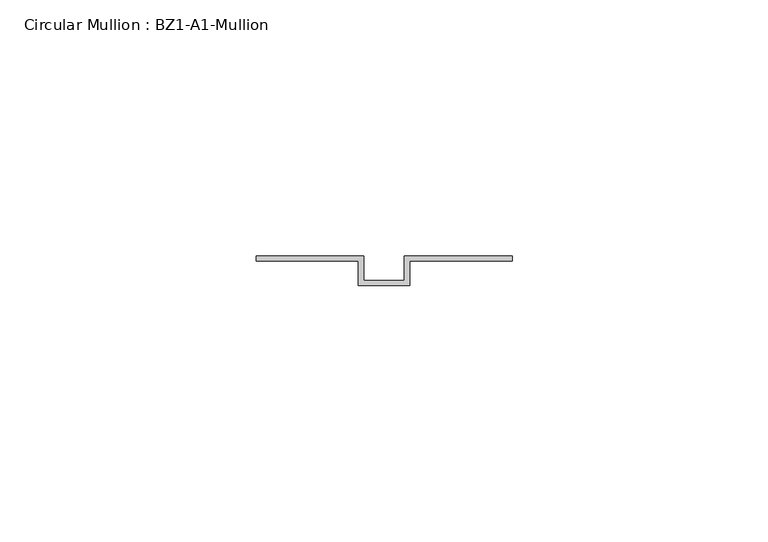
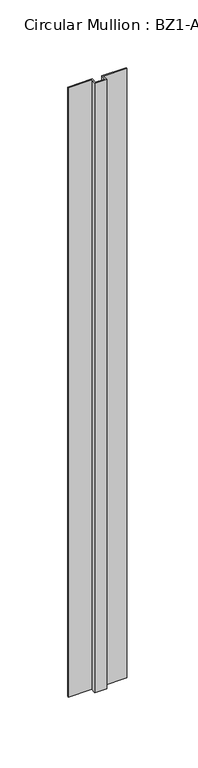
"""IFC4 building model written with IfcOpenShell, lengths in millimetres: member geometry, Circular Mullion : BZ1-A1-Mullion."""

from ifc_helpers import new_model, si_unit, frame, origin, place, context, project, spatial, polyline, outline, extrude, source, transform, mapped, element, save


def circular_mullion_bz1_a1_mullion_760fcf40(model_context):
    return source(origin(), model_context, "Body", "SweptSolid", [
        extrude(outline(polyline([(-25.0, 11.0), (-4.0, 11.0), (-4.0, 6.2), (4.0, 6.2), (4.0, 11.0), (25.0, 11.0), (25.0, 10.0), (5.0, 10.0), (5.0, 5.2), (-5.0, 5.2), (-5.0, 10.0), (-25.0, 10.0), (-25.0, 11.0)])), frame((0.0, 0.0, -550.0), z_axis=(0.0, 0.0, 1.0), x_axis=(1.0, 0.0, 0.0)), (0.0, 0.0, 1.0), 550.0),
    ])


if __name__ == "__main__":
    model = new_model("IFC4")
    model_context = context("Model", 3, world=origin())
    ifc_project = project(units=[si_unit("LENGTHUNIT", "METRE", prefix="MILLI")], contexts=[model_context])
    site = spatial("IfcSite", under=ifc_project)
    building = spatial("IfcBuilding", under=site)
    placement = place(None, origin())
    circular_mullion_bz1_a1_mullion_shape = circular_mullion_bz1_a1_mullion_760fcf40(model_context)
    element("IfcMember", 1, ObjectType="Circular Mullion : BZ1-A1-Mullion", at=placement, inside=building, context=model_context, shape_type="MappedRepresentation", body=[
        mapped(circular_mullion_bz1_a1_mullion_shape, transform((0.0, 0.0, 0.0), x_axis=(1.0, 0.0, 0.0), y_axis=(0.0, 1.0, 0.0), z_axis=(0.0, 0.0, 1.0))),
    ])
    save(model, "model.ifc")
